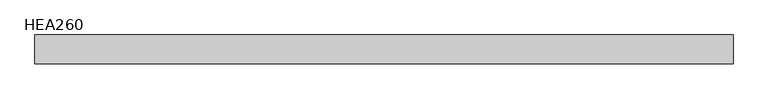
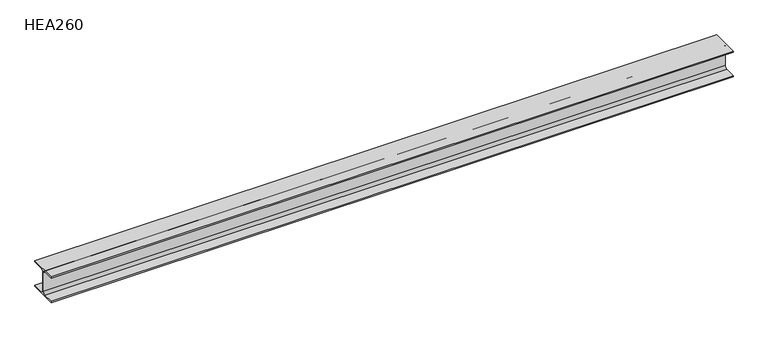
"""IFC4 building model written with IfcOpenShell, lengths in millimetres: beam geometry, HE-A : HEA260."""

from ifc_helpers import new_model, si_unit, point, frame, frame_2d, origin, place, context, project, spatial, polyline, circle_curve, trimmed, segment, composite_curve, outline, extrude, source, transform, mapped, element, save


def hea260_55b79d81(model_context):
    return source(origin(), model_context, "Body", "SweptSolid", [
        extrude(outline(composite_curve([segment(polyline([(130.0, -112.5), (130.0, -125.0), (-130.0, -125.0), (-130.0, -112.5), (-27.75, -112.5)]), True, "CONTINUOUS"), segment(trimmed(circle_curve(frame_2d((-27.75, -88.5)), 24.0), [point((-27.75, -112.5))], [point((-3.75, -88.5))], True, "CARTESIAN"), True, "CONTINUOUS"), segment(polyline([(-3.75, -88.5), (-3.75, 88.5)]), True, "CONTINUOUS"), segment(trimmed(circle_curve(frame_2d((-27.75, 88.5)), 24.0), [point((-3.75, 88.5))], [point((-27.75, 112.5))], True, "CARTESIAN"), True, "CONTINUOUS"), segment(polyline([(-27.75, 112.5), (-130.0, 112.5), (-130.0, 125.0), (130.0, 125.0), (130.0, 112.5), (27.75, 112.5)]), True, "CONTINUOUS"), segment(trimmed(circle_curve(frame_2d((27.75, 88.5)), 24.0), [point((27.75, 112.5))], [point((3.75, 88.5))], True, "CARTESIAN"), True, "CONTINUOUS"), segment(polyline([(3.75, 88.5), (3.75, -88.5)]), True, "CONTINUOUS"), segment(trimmed(circle_curve(frame_2d((27.75, -88.5)), 24.0), [point((3.75, -88.5))], [point((27.75, -112.5))], True, "CARTESIAN"), True, "CONTINUOUS"), segment(polyline([(27.75, -112.5), (130.0, -112.5)]), True, "CONTINUOUS")], self_intersect=False)), frame((-3130.05, 0.0, 0.0), z_axis=(1.0, 0.0, 0.0), x_axis=(0.0, 1.0, 0.0)), (0.0, 0.0, 1.0), 6260.1),
    ])


if __name__ == "__main__":
    model = new_model("IFC4")
    model_context = context("Model", 3, world=origin())
    ifc_project = project(units=[si_unit("LENGTHUNIT", "METRE", prefix="MILLI")], contexts=[model_context])
    site = spatial("IfcSite", under=ifc_project)
    building = spatial("IfcBuilding", under=site)
    placement = place(None, origin())
    hea260_shape = hea260_55b79d81(model_context)
    element("IfcBeam", 1, ObjectType="HE-A : HEA260", at=placement, inside=building, context=model_context, shape_type="MappedRepresentation", body=[
        mapped(hea260_shape, transform((0.0, 0.0, 0.0), x_axis=(1.0, 0.0, 0.0), y_axis=(0.0, 1.0, 0.0), z_axis=(0.0, 0.0, 1.0))),
    ])
    save(model, "model.ifc")
